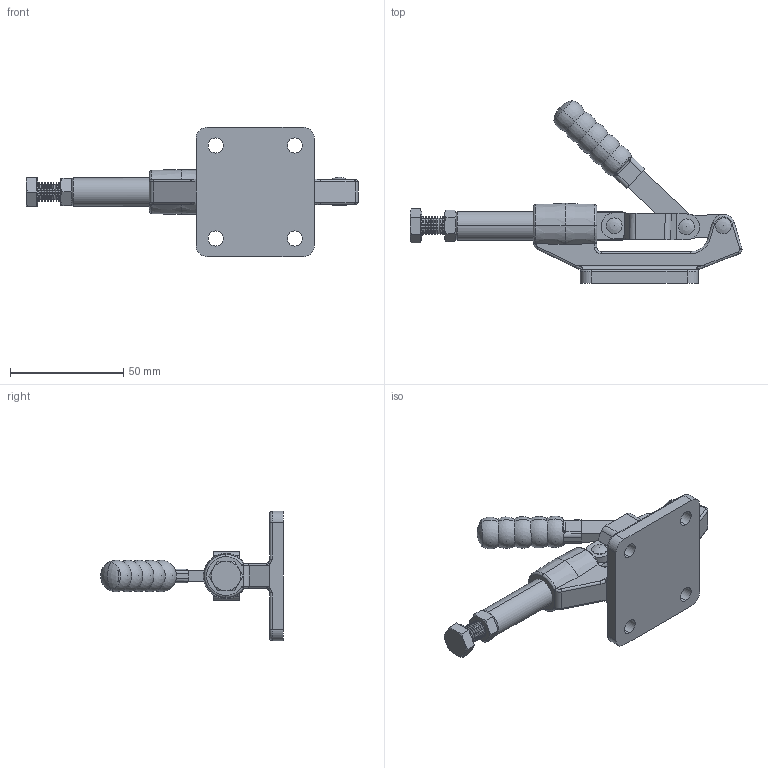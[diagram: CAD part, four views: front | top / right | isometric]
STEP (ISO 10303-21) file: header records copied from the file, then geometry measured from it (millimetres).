
FILE_DESCRIPTION (( 'STEP AP214' ), '1' );
FILE_NAME ('ISK-SL1000.STEP', '2015-07-23T02:17:26', ( '' ), ( '' ), 'SwSTEP 2.0', 'SolidWorks 2015', '' );
FILE_SCHEMA (( 'AUTOMOTIVE_DESIGN' ));
Length unit declared in the file: millimetre
Products named in the file (9): Grip; hexagon nut_3 small_jis_JIS B 1181 Small hexagon nut - Class 3 Finished M8 --N; continuous thread hexagon head bolt_a_jis_JIS B 1180 Continuous thread hexagon head bolt A M8 x 30 --S; Rivet_Φ4×11; Handle; Link; Arm; Base; ISK-SL1000
Assembly tree (11 placements, depth 2):
  ISK-SL1000
    Base
    Arm
    Link  x2
    Handle
    Rivet_Φ4×11  x3
    continuous thread hexagon head bolt_a_jis_JIS B 1180 Continuous thread hexagon head bolt A M8 x 30 --S
    hexagon nut_3 small_jis_JIS B 1181 Small hexagon nut - Class 3 Finished M8 --N
    Grip
Bounding box: 146.82 x 80.78 x 57.2 mm (x, y, z)
Volume: 51418.1 mm3; surface area: 28408.3 mm2
Topology: 11 solids, 11 shells, 510 faces, 1243 edges, 751 vertices
Faces by surface type: cylinder 169, plane 139, cone 128, torus 45, sphere 15, bspline 14
Entity records: 13916 total; most frequent: CARTESIAN_POINT 2908, DIRECTION 2432, ORIENTED_EDGE 2140, EDGE_CURVE 1070, AXIS2_PLACEMENT_3D 1010, VERTEX_POINT 652, CIRCLE 567, EDGE_LOOP 478
